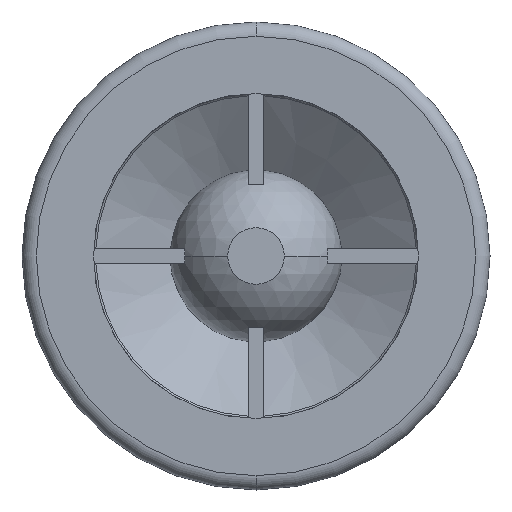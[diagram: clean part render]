
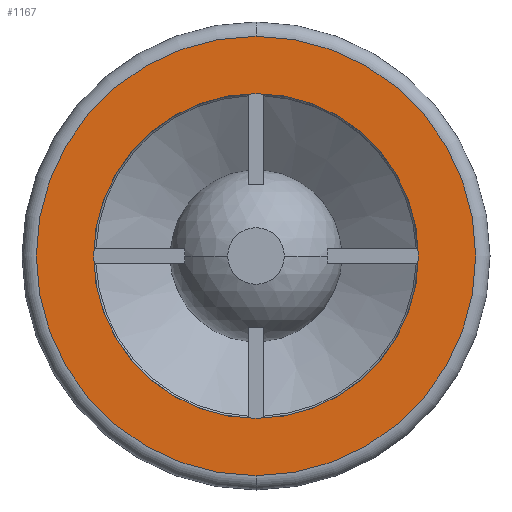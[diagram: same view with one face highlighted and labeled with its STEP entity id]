
A CAD part, front view. The second image highlights one B-rep face of the part: STEP entity #1167.
In plain terms, the highlighted planar face has unit normal (0, -1, 0).
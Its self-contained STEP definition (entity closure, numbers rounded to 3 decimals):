
#458 = DIRECTION ( 'NONE',  ( 0., 0., -1. ) ) ;
#459 = DIRECTION ( 'NONE',  ( 0., -1., 0. ) ) ;
#460 = CARTESIAN_POINT ( 'NONE',  ( 0., 0., 0. ) ) ;
#461 = AXIS2_PLACEMENT_3D ( 'NONE', #460, #459, #458 ) ;
#462 = CIRCLE ( 'NONE', #461, 17. ) ;
#877 = CARTESIAN_POINT ( 'NONE',  ( 0., 0., -17. ) ) ;
#878 = DIRECTION ( 'NONE',  ( 0., 0., -1. ) ) ;
#879 = DIRECTION ( 'NONE',  ( 0., -1., 0. ) ) ;
#880 = CARTESIAN_POINT ( 'NONE',  ( 0., 0., 0. ) ) ;
#881 = AXIS2_PLACEMENT_3D ( 'NONE', #880, #879, #878 ) ;
#932 = CIRCLE ( 'NONE', #881, 17. ) ;
#933 = CARTESIAN_POINT ( 'NONE',  ( 0., 0., 17. ) ) ;
#1088 = ORIENTED_EDGE ( 'NONE', *, *, #1089, .T. ) ;
#1089 = EDGE_CURVE ( 'NONE', #2659, #2683, #1333, .T. ) ;
#1090 = ORIENTED_EDGE ( 'NONE', *, *, #2658, .T. ) ;
#1091 = EDGE_LOOP ( 'NONE', ( #1092, #1093 ) ) ;
#1092 = ORIENTED_EDGE ( 'NONE', *, *, #3125, .F. ) ;
#1093 = ORIENTED_EDGE ( 'NONE', *, *, #2918, .F. ) ;
#1167 = ADVANCED_FACE ( 'NONE', ( #1393, #1392 ), #1391, .F. ) ;
#1175 = EDGE_LOOP ( 'NONE', ( #1088, #1090 ) ) ;
#1285 = DIRECTION ( 'NONE',  ( 0., 0., 1. ) ) ;
#1286 = DIRECTION ( 'NONE',  ( 0., -1., 0. ) ) ;
#1331 = CARTESIAN_POINT ( 'NONE',  ( 0., 0., 0. ) ) ;
#1332 = AXIS2_PLACEMENT_3D ( 'NONE', #1331, #1286, #1285 ) ;
#1333 = CIRCLE ( 'NONE', #1332, 23. ) ;
#1386 = DIRECTION ( 'NONE',  ( 0., 0., 1. ) ) ;
#1387 = DIRECTION ( 'NONE',  ( 0., 1., 0. ) ) ;
#1388 = CARTESIAN_POINT ( 'NONE',  ( -17., 0., 0. ) ) ;
#1390 = AXIS2_PLACEMENT_3D ( 'NONE', #1388, #1387, #1386 ) ;
#1391 = PLANE ( 'NONE',  #1390 ) ;
#1392 = FACE_BOUND ( 'NONE', #1091, .T. ) ;
#1393 = FACE_OUTER_BOUND ( 'NONE', #1175, .T. ) ;
#2117 = CARTESIAN_POINT ( 'NONE',  ( 0., 0., 23. ) ) ;
#2120 = CARTESIAN_POINT ( 'NONE',  ( 0., 0., 0. ) ) ;
#2137 = DIRECTION ( 'NONE',  ( 0., 0., 1. ) ) ;
#2138 = DIRECTION ( 'NONE',  ( 0., -1., 0. ) ) ;
#2139 = AXIS2_PLACEMENT_3D ( 'NONE', #2120, #2138, #2137 ) ;
#2140 = CIRCLE ( 'NONE', #2139, 23. ) ;
#2223 = CARTESIAN_POINT ( 'NONE',  ( 0., 0., -23. ) ) ;
#2658 = EDGE_CURVE ( 'NONE', #2683, #2659, #2140, .T. ) ;
#2659 = VERTEX_POINT ( 'NONE', #2117 ) ;
#2683 = VERTEX_POINT ( 'NONE', #2223 ) ;
#2916 = VERTEX_POINT ( 'NONE', #933 ) ;
#2918 = EDGE_CURVE ( 'NONE', #2916, #2919, #932, .T. ) ;
#2919 = VERTEX_POINT ( 'NONE', #877 ) ;
#3125 = EDGE_CURVE ( 'NONE', #2919, #2916, #462, .T. ) ;
